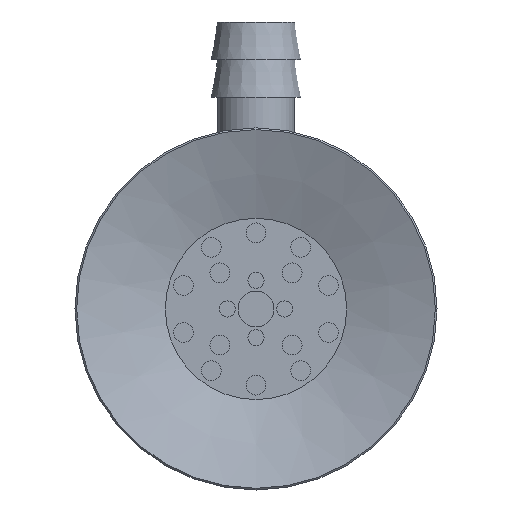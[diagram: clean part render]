
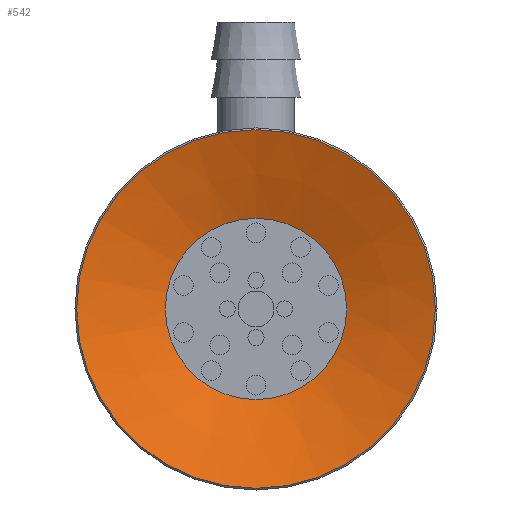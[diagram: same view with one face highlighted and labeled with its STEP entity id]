
A CAD part, front view. The second image highlights one B-rep face of the part: STEP entity #542.
In plain terms, the highlighted conical face has half-angle 70 degrees and reference radius 10 mm.
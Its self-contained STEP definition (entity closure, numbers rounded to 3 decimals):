
#542=ADVANCED_FACE('',(#828,#829),#830,.F.);
#828=FACE_BOUND('',#1253,.T.);
#829=FACE_OUTER_BOUND('',#1254,.T.);
#830=CONICAL_SURFACE('',#1255,10.0,1.222);
#1253=EDGE_LOOP('',(#2043));
#1254=EDGE_LOOP('',(#2044));
#1255=AXIS2_PLACEMENT_3D('',#2045,#2046,#2047);
#2043=ORIENTED_EDGE('',*,*,#2588,.T.);
#2044=ORIENTED_EDGE('',*,*,#2589,.F.);
#2045=CARTESIAN_POINT('',(0.0,0.,0.));
#2046=DIRECTION('',(0.0,0.,-1.0));
#2047=DIRECTION('',(0.0,1.0,0.));
#2588=EDGE_CURVE('',#2938,#2938,#2939,.T.);
#2589=EDGE_CURVE('',#2940,#2940,#2941,.T.);
#2938=VERTEX_POINT('',#3754);
#2939=CIRCLE('',#3755,5.055);
#2940=VERTEX_POINT('',#3756);
#2941=CIRCLE('',#3757,10.0);
#3754=CARTESIAN_POINT('',(0.0,-5.055,1.8));
#3755=AXIS2_PLACEMENT_3D('',#4166,#4167,#4168);
#3756=CARTESIAN_POINT('',(0.0,-10.0,0.));
#3757=AXIS2_PLACEMENT_3D('',#4169,#4170,#4171);
#4166=CARTESIAN_POINT('',(0.0,0.,1.8));
#4167=DIRECTION('',(0.0,0.,1.0));
#4168=DIRECTION('',(0.0,-1.0,0.));
#4169=CARTESIAN_POINT('',(0.0,0.,0.));
#4170=DIRECTION('',(0.0,0.,1.0));
#4171=DIRECTION('',(0.0,-1.0,0.));
